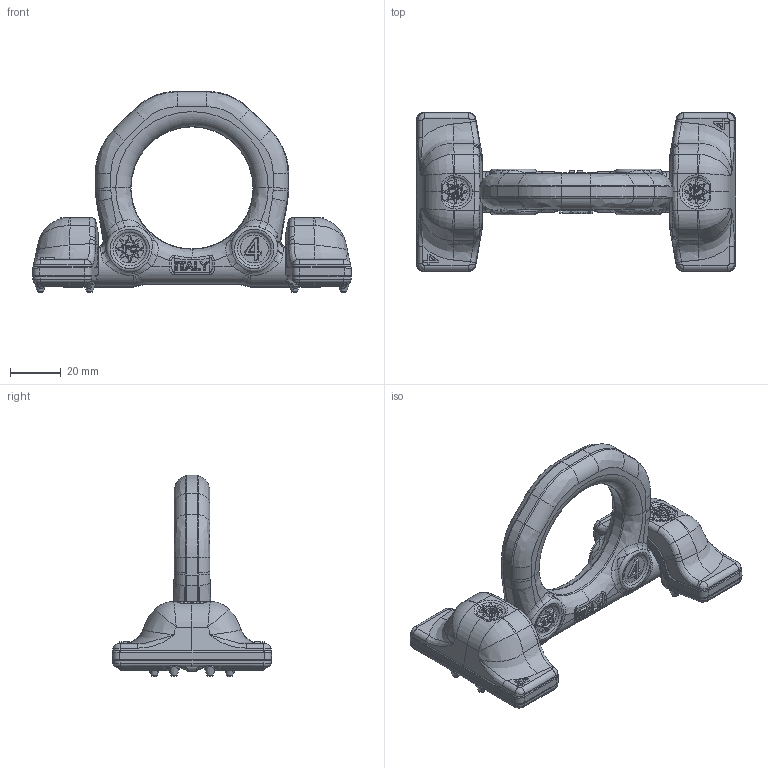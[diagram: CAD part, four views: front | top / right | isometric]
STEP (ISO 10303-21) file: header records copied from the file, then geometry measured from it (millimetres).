
FILE_DESCRIPTION((''),'2;1');
FILE_NAME('z) GFC-2471-0000_GFC-2472-0000 (montaggio anello e cavalletto)','2013-12-04T16:41:18',('Luca'),(''),'CADlook_v9.0','Cimatron E 8.0','');
FILE_SCHEMA(('AUTOMOTIVE_DESIGN { 1 2 10303 214 0 1 1 1 }'));
Length unit declared in the file: millimetre
Bounding box: 125.5 x 62.62 x 79.23 mm (x, y, z)
Volume: 94458.5 mm3; surface area: 24782.5 mm2
Topology: 3 solids, 3 shells, 1142 faces, 2913 edges, 1785 vertices
Faces by surface type: bspline 494, plane 350, cylinder 181, cone 67, torus 34, sphere 16
Full cylindrical faces by diameter (mm): 48 x1
Entity records: 86095 total; most frequent: CARTESIAN_POINT 53133, ORIENTED_EDGE 5690, DIRECTION 3883, EDGE_CURVE 2845, VERTEX_POINT 1777, AXIS2_PLACEMENT_3D 1390, EDGE_LOOP 1196, COLOUR_RGB 1137
